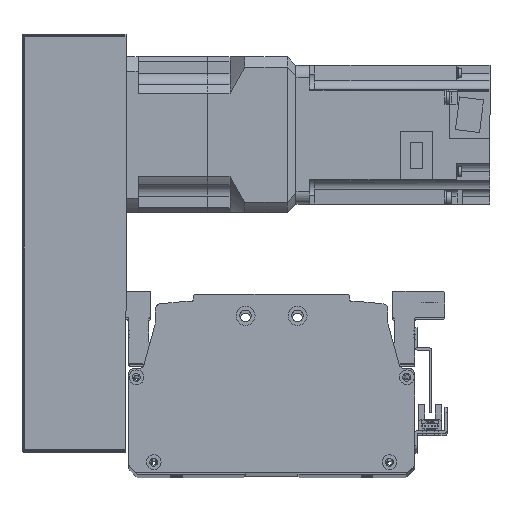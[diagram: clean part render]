
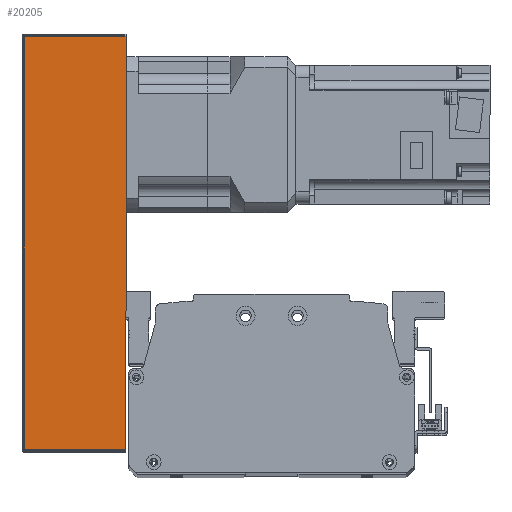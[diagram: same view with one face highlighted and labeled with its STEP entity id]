
A CAD part, top view. The second image highlights one B-rep face of the part: STEP entity #20205.
In plain terms, the highlighted planar face has unit normal (0, 0, 1) as drawn and (0, -1, 0) by its records, which use the part's own axes.
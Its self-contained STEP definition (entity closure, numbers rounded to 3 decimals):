
#601=PLANE('',#22051);
#1722=LINE('',#32475,#3382);
#1745=LINE('',#32562,#3405);
#1746=LINE('',#32570,#3406);
#1754=LINE('',#32596,#3414);
#3382=VECTOR('',#26287,10.);
#3405=VECTOR('',#26398,10.);
#3406=VECTOR('',#26409,10.);
#3414=VECTOR('',#26445,10.);
#5426=FACE_OUTER_BOUND('',#6882,.T.);
#6882=EDGE_LOOP('',(#16428,#16429,#16430,#16431));
#9774=VERTEX_POINT('',#32472);
#9775=VERTEX_POINT('',#32474);
#9795=VERTEX_POINT('',#32558);
#9796=VERTEX_POINT('',#32564);
#12145=EDGE_CURVE('',#9774,#9775,#1722,.T.);
#12190=EDGE_CURVE('',#9775,#9795,#1745,.T.);
#12194=EDGE_CURVE('',#9796,#9774,#1746,.T.);
#12208=EDGE_CURVE('',#9795,#9796,#1754,.T.);
#16428=ORIENTED_EDGE('',*,*,#12190,.F.);
#16429=ORIENTED_EDGE('',*,*,#12145,.F.);
#16430=ORIENTED_EDGE('',*,*,#12194,.F.);
#16431=ORIENTED_EDGE('',*,*,#12208,.F.);
#20205=ADVANCED_FACE('',(#5426),#601,.T.);
#22051=AXIS2_PLACEMENT_3D('',#32601,#26454,#26455);
#26287=DIRECTION('',(1.,0.,0.));
#26398=DIRECTION('',(0.,0.,-1.));
#26409=DIRECTION('',(0.,0.,1.));
#26445=DIRECTION('',(-1.,0.,0.));
#26454=DIRECTION('center_axis',(0.,-1.,0.));
#26455=DIRECTION('ref_axis',(1.,0.,0.));
#32472=CARTESIAN_POINT('',(-119.5,-51.,30.));
#32474=CARTESIAN_POINT('',(119.5,-51.,30.));
#32475=CARTESIAN_POINT('',(120.5,-51.,30.));
#32558=CARTESIAN_POINT('',(119.5,-51.,-29.));
#32562=CARTESIAN_POINT('',(119.5,-51.,0.));
#32564=CARTESIAN_POINT('',(-119.5,-51.,-29.));
#32570=CARTESIAN_POINT('',(-119.5,-51.,0.));
#32596=CARTESIAN_POINT('',(-60.25,-51.,-29.));
#32601=CARTESIAN_POINT('Origin',(-120.5,-51.,0.));
